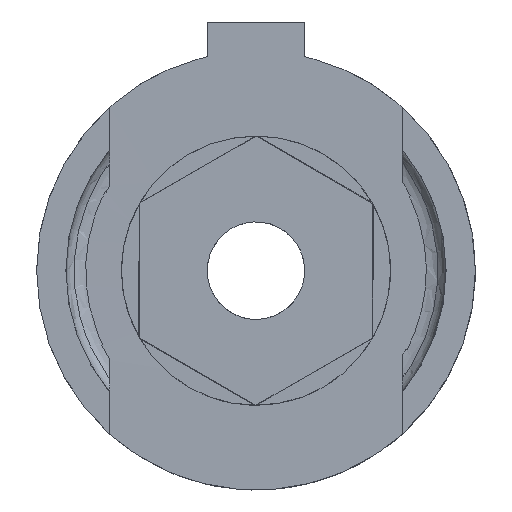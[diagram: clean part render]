
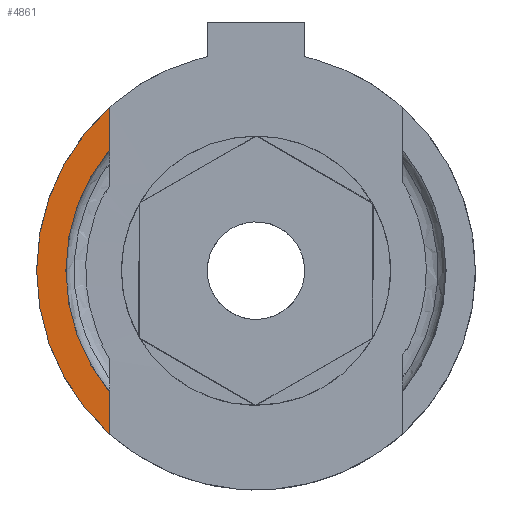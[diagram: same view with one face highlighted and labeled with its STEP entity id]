
A CAD part, front view. The second image highlights one B-rep face of the part: STEP entity #4861.
In plain terms, the highlighted planar face has unit normal (0, -1, 0).
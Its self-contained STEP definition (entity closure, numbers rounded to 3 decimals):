
#1276 = CYLINDRICAL_SURFACE('',#1277,11.25);
#1277 = AXIS2_PLACEMENT_3D('',#1278,#1279,#1280);
#1278 = CARTESIAN_POINT('',(0.,-3.719,
    0.));
#1279 = DIRECTION('',(0.,1.,0.));
#1280 = DIRECTION('',(0.,-0.,1.));
#1620 = PLANE('',#1621);
#1621 = AXIS2_PLACEMENT_3D('',#1622,#1623,#1624);
#1622 = CARTESIAN_POINT('',(-7.5,-2.973,5.632));
#1623 = DIRECTION('',(1.,0.,0.));
#1624 = DIRECTION('',(0.,0.,1.));
#1835 = PLANE('',#1836);
#1836 = AXIS2_PLACEMENT_3D('',#1837,#1838,#1839);
#1837 = CARTESIAN_POINT('',(-7.5,-3.009,
    -5.655));
#1838 = DIRECTION('',(1.,0.,0.));
#1839 = DIRECTION('',(0.,0.,1.));
#1980 = VERTEX_POINT('',#1981);
#1981 = CARTESIAN_POINT('',(-7.5,-7.5,-6.228));
#2007 = CYLINDRICAL_SURFACE('',#2008,9.749);
#2008 = AXIS2_PLACEMENT_3D('',#2009,#2010,#2011);
#2009 = CARTESIAN_POINT('',(0.,-4.069,
    0.));
#2010 = DIRECTION('',(0.,1.,0.));
#2011 = DIRECTION('',(1.,-0.,0.));
#2087 = EDGE_CURVE('',#2088,#1980,#2090,.T.);
#2088 = VERTEX_POINT('',#2089);
#2089 = CARTESIAN_POINT('',(-7.5,-7.5,6.228));
#2090 = SURFACE_CURVE('',#2091,(#2096,#2102),.PCURVE_S1.);
#2091 = CIRCLE('',#2092,9.749);
#2092 = AXIS2_PLACEMENT_3D('',#2093,#2094,#2095);
#2093 = CARTESIAN_POINT('',(0.,-7.5,0.)
  );
#2094 = DIRECTION('',(0.,-1.,0.));
#2095 = DIRECTION('',(-0.769,0.,0.639)
  );
#2096 = PCURVE('',#2007,#2097);
#2097 = DEFINITIONAL_REPRESENTATION('',(#2098),#2101);
#2098 = B_SPLINE_CURVE_WITH_KNOTS('',1,(#2099,#2100),.UNSPECIFIED.,.F.,
  .F.,(2,2),(0.,1.386),.PIECEWISE_BEZIER_KNOTS.);
#2099 = CARTESIAN_POINT('',(3.835,-3.431));
#2100 = CARTESIAN_POINT('',(2.449,-3.431));
#2101 = ( GEOMETRIC_REPRESENTATION_CONTEXT(2) 
PARAMETRIC_REPRESENTATION_CONTEXT() REPRESENTATION_CONTEXT('2D SPACE',''
  ) );
#2102 = PCURVE('',#2103,#2108);
#2103 = PLANE('',#2104);
#2104 = AXIS2_PLACEMENT_3D('',#2105,#2106,#2107);
#2105 = CARTESIAN_POINT('',(-9.404,-7.5,-0.016));
#2106 = DIRECTION('',(-0.,1.,0.));
#2107 = DIRECTION('',(0.,0.,-1.));
#2108 = DEFINITIONAL_REPRESENTATION('',(#2109),#2117);
#2109 = ( BOUNDED_CURVE() B_SPLINE_CURVE(2,(#2110,#2111,#2112,#2113,
#2114,#2115,#2116),.UNSPECIFIED.,.T.,.F.) B_SPLINE_CURVE_WITH_KNOTS((1,2
    ,2,2,2,1),(-2.094,0.,2.094,4.189,
6.283,8.378),.UNSPECIFIED.) CURVE() 
GEOMETRIC_REPRESENTATION_ITEM() RATIONAL_B_SPLINE_CURVE((1.,0.5,1.,0.5,
1.,0.5,1.)) REPRESENTATION_ITEM('') );
#2110 = CARTESIAN_POINT('',(-6.244,-1.904));
#2111 = CARTESIAN_POINT('',(6.746,8.883));
#2112 = CARTESIAN_POINT('',(9.593,-7.76));
#2113 = CARTESIAN_POINT('',(12.439,-24.404));
#2114 = CARTESIAN_POINT('',(-3.398,-18.547));
#2115 = CARTESIAN_POINT('',(-19.235,-12.691));
#2116 = CARTESIAN_POINT('',(-6.244,-1.904));
#2117 = ( GEOMETRIC_REPRESENTATION_CONTEXT(2) 
PARAMETRIC_REPRESENTATION_CONTEXT() REPRESENTATION_CONTEXT('2D SPACE',''
  ) );
#3665 = VERTEX_POINT('',#3666);
#3666 = CARTESIAN_POINT('',(-7.5,-7.5,-8.385));
#3687 = EDGE_CURVE('',#3665,#3688,#3690,.T.);
#3688 = VERTEX_POINT('',#3689);
#3689 = CARTESIAN_POINT('',(-7.5,-7.5,8.385));
#3690 = SURFACE_CURVE('',#3691,(#3696,#3702),.PCURVE_S1.);
#3691 = CIRCLE('',#3692,11.25);
#3692 = AXIS2_PLACEMENT_3D('',#3693,#3694,#3695);
#3693 = CARTESIAN_POINT('',(0.,-7.5,0.)
  );
#3694 = DIRECTION('',(0.,1.,0.));
#3695 = DIRECTION('',(-0.667,0.,-0.745
    ));
#3696 = PCURVE('',#1276,#3697);
#3697 = DEFINITIONAL_REPRESENTATION('',(#3698),#3701);
#3698 = B_SPLINE_CURVE_WITH_KNOTS('',1,(#3699,#3700),.UNSPECIFIED.,.F.,
  .F.,(2,2),(0.,1.682),.PIECEWISE_BEZIER_KNOTS.);
#3699 = CARTESIAN_POINT('',(3.871,-3.781));
#3700 = CARTESIAN_POINT('',(5.553,-3.781));
#3701 = ( GEOMETRIC_REPRESENTATION_CONTEXT(2) 
PARAMETRIC_REPRESENTATION_CONTEXT() REPRESENTATION_CONTEXT('2D SPACE',''
  ) );
#3702 = PCURVE('',#2103,#3703);
#3703 = DEFINITIONAL_REPRESENTATION('',(#3704),#3708);
#3704 = CIRCLE('',#3705,11.25);
#3705 = AXIS2_PLACEMENT_2D('',#3706,#3707);
#3706 = CARTESIAN_POINT('',(-0.016,-9.404));
#3707 = DIRECTION('',(0.745,0.667));
#3708 = ( GEOMETRIC_REPRESENTATION_CONTEXT(2) 
PARAMETRIC_REPRESENTATION_CONTEXT() REPRESENTATION_CONTEXT('2D SPACE',''
  ) );
#4214 = EDGE_CURVE('',#3688,#2088,#4215,.T.);
#4215 = SURFACE_CURVE('',#4216,(#4220,#4227),.PCURVE_S1.);
#4216 = LINE('',#4217,#4218);
#4217 = CARTESIAN_POINT('',(-7.5,-7.5,8.385));
#4218 = VECTOR('',#4219,1.);
#4219 = DIRECTION('',(0.,0.,-1.));
#4220 = PCURVE('',#1620,#4221);
#4221 = DEFINITIONAL_REPRESENTATION('',(#4222),#4226);
#4222 = LINE('',#4223,#4224);
#4223 = CARTESIAN_POINT('',(2.753,4.527));
#4224 = VECTOR('',#4225,1.);
#4225 = DIRECTION('',(-1.,0.));
#4226 = ( GEOMETRIC_REPRESENTATION_CONTEXT(2) 
PARAMETRIC_REPRESENTATION_CONTEXT() REPRESENTATION_CONTEXT('2D SPACE',''
  ) );
#4227 = PCURVE('',#2103,#4228);
#4228 = DEFINITIONAL_REPRESENTATION('',(#4229),#4233);
#4229 = LINE('',#4230,#4231);
#4230 = CARTESIAN_POINT('',(-8.402,-1.904));
#4231 = VECTOR('',#4232,1.);
#4232 = DIRECTION('',(1.,0.));
#4233 = ( GEOMETRIC_REPRESENTATION_CONTEXT(2) 
PARAMETRIC_REPRESENTATION_CONTEXT() REPRESENTATION_CONTEXT('2D SPACE',''
  ) );
#4748 = EDGE_CURVE('',#1980,#3665,#4749,.T.);
#4749 = SURFACE_CURVE('',#4750,(#4754,#4761),.PCURVE_S1.);
#4750 = LINE('',#4751,#4752);
#4751 = CARTESIAN_POINT('',(-7.5,-7.5,-6.228));
#4752 = VECTOR('',#4753,1.);
#4753 = DIRECTION('',(0.,0.,-1.));
#4754 = PCURVE('',#1835,#4755);
#4755 = DEFINITIONAL_REPRESENTATION('',(#4756),#4760);
#4756 = LINE('',#4757,#4758);
#4757 = CARTESIAN_POINT('',(-0.573,4.491));
#4758 = VECTOR('',#4759,1.);
#4759 = DIRECTION('',(-1.,0.));
#4760 = ( GEOMETRIC_REPRESENTATION_CONTEXT(2) 
PARAMETRIC_REPRESENTATION_CONTEXT() REPRESENTATION_CONTEXT('2D SPACE',''
  ) );
#4761 = PCURVE('',#2103,#4762);
#4762 = DEFINITIONAL_REPRESENTATION('',(#4763),#4767);
#4763 = LINE('',#4764,#4765);
#4764 = CARTESIAN_POINT('',(6.212,-1.904));
#4765 = VECTOR('',#4766,1.);
#4766 = DIRECTION('',(1.,0.));
#4767 = ( GEOMETRIC_REPRESENTATION_CONTEXT(2) 
PARAMETRIC_REPRESENTATION_CONTEXT() REPRESENTATION_CONTEXT('2D SPACE',''
  ) );
#4861 = ADVANCED_FACE('',(#4862),#2103,.F.);
#4862 = FACE_BOUND('',#4863,.T.);
#4863 = EDGE_LOOP('',(#4864,#4865,#4866,#4867));
#4864 = ORIENTED_EDGE('',*,*,#4748,.F.);
#4865 = ORIENTED_EDGE('',*,*,#2087,.F.);
#4866 = ORIENTED_EDGE('',*,*,#4214,.F.);
#4867 = ORIENTED_EDGE('',*,*,#3687,.F.);
